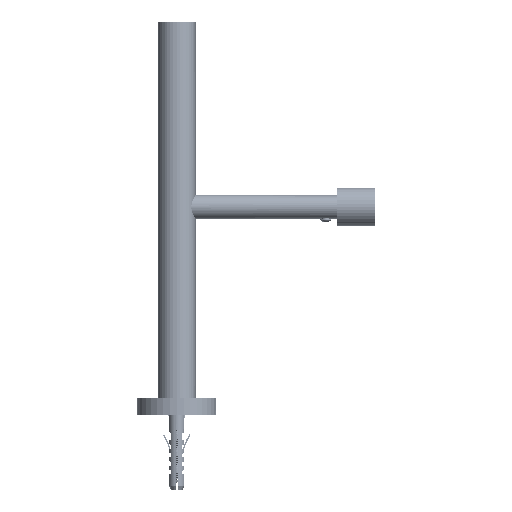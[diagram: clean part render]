
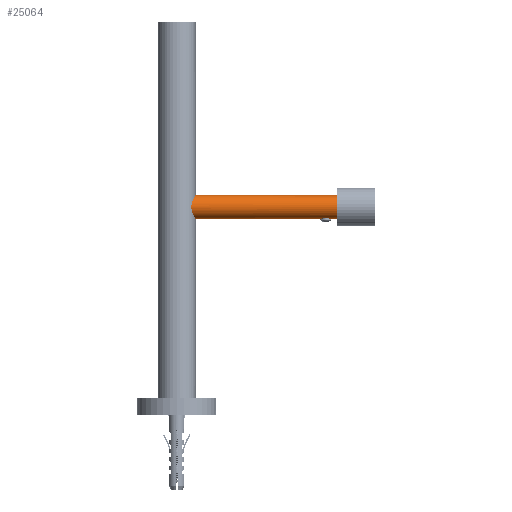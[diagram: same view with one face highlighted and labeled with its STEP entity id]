
A CAD part, left-side view. The second image highlights one B-rep face of the part: STEP entity #25064.
In plain terms, the highlighted cylindrical face has radius 6.35 mm (diameter 12.7 mm), a full revolution.
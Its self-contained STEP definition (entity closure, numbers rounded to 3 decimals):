
#607=FACE_BOUND('',#8011,.T.);
#996=B_SPLINE_CURVE_WITH_KNOTS('',3,(#54659,#54660,#54661,#54662,#54663,
#54664,#54665,#54666,#54667,#54668,#54669,#54670,#54671,#54672,#54673,#54674,
#54675,#54676,#54677,#54678,#54679,#54680,#54681,#54682,#54683,#54684,#54685,
#54686,#54687,#54688,#54689,#54690,#54691,#54692),.UNSPECIFIED.,.T.,.F.,
(4,2,2,2,2,2,2,2,2,2,2,2,2,2,2,2,4),(0.,0.249,0.498,
0.745,0.992,1.239,1.486,1.735,
1.984,2.233,2.482,2.728,2.975,
3.222,3.469,3.718,3.967),
 .UNSPECIFIED.);
#1004=B_SPLINE_CURVE_WITH_KNOTS('',3,(#54861,#54862,#54863,#54864,#54865,
#54866,#54867,#54868,#54869,#54870,#54871,#54872,#54873,#54874,#54875,#54876,
#54877,#54878,#54879,#54880,#54881,#54882,#54883,#54884,#54885,#54886,#54887,
#54888,#54889,#54890,#54891,#54892,#54893,#54894),.UNSPECIFIED.,.T.,.F.,
(4,2,2,2,2,2,2,2,2,2,2,2,2,2,2,2,4),(0.,0.095,0.191,
0.286,0.381,0.476,0.572,
0.667,0.762,0.858,0.953,
1.048,1.144,1.239,1.334,1.429,
1.525),.UNSPECIFIED.);
#2596=LINE('',#54859,#4274);
#4274=VECTOR('',#28990,6.35);
#5792=CYLINDRICAL_SURFACE('',#26643,6.35);
#6522=FACE_OUTER_BOUND('',#8010,.T.);
#8010=EDGE_LOOP('',(#17798,#17799,#17800,#17801));
#8011=EDGE_LOOP('',(#17802));
#9482=CIRCLE('',#26642,6.35);
#10376=VERTEX_POINT('',#54658);
#10387=VERTEX_POINT('',#54856);
#10388=VERTEX_POINT('',#54860);
#13192=EDGE_CURVE('',#10376,#10376,#996,.T.);
#13206=EDGE_CURVE('',#10387,#10387,#9482,.T.);
#13207=EDGE_CURVE('',#10376,#10387,#2596,.T.);
#13208=EDGE_CURVE('',#10388,#10388,#1004,.T.);
#17798=ORIENTED_EDGE('',*,*,#13192,.T.);
#17799=ORIENTED_EDGE('',*,*,#13207,.T.);
#17800=ORIENTED_EDGE('',*,*,#13206,.T.);
#17801=ORIENTED_EDGE('',*,*,#13207,.F.);
#17802=ORIENTED_EDGE('',*,*,#13208,.F.);
#25064=ADVANCED_FACE('',(#6522,#607),#5792,.T.);
#26642=AXIS2_PLACEMENT_3D('',#54857,#28986,#28987);
#26643=AXIS2_PLACEMENT_3D('',#54858,#28988,#28989);
#28986=DIRECTION('center_axis',(0.,1.,0.));
#28987=DIRECTION('ref_axis',(1.,0.,0.));
#28988=DIRECTION('center_axis',(0.,1.,0.));
#28989=DIRECTION('ref_axis',(1.,0.,0.));
#28990=DIRECTION('',(0.,-1.,0.));
#54658=CARTESIAN_POINT('',(-6.35,317.675,115.1));
#54659=CARTESIAN_POINT('Ctrl Pts',(-6.35,317.675,115.1));
#54660=CARTESIAN_POINT('Ctrl Pts',(-6.35,317.675,114.27));
#54661=CARTESIAN_POINT('Ctrl Pts',(-6.179,317.527,113.412));
#54662=CARTESIAN_POINT('Ctrl Pts',(-5.526,317.056,111.86));
#54663=CARTESIAN_POINT('Ctrl Pts',(-5.043,316.743,111.163));
#54664=CARTESIAN_POINT('Ctrl Pts',(-3.942,316.189,110.062));
#54665=CARTESIAN_POINT('Ctrl Pts',(-3.244,315.907,109.576));
#54666=CARTESIAN_POINT('Ctrl Pts',(-1.685,315.51,108.919));
#54667=CARTESIAN_POINT('Ctrl Pts',(-0.823,315.4,108.75));
#54668=CARTESIAN_POINT('Ctrl Pts',(0.823,315.4,108.75));
#54669=CARTESIAN_POINT('Ctrl Pts',(1.685,315.51,108.919));
#54670=CARTESIAN_POINT('Ctrl Pts',(3.244,315.907,109.576));
#54671=CARTESIAN_POINT('Ctrl Pts',(3.942,316.189,110.062));
#54672=CARTESIAN_POINT('Ctrl Pts',(5.043,316.743,111.163));
#54673=CARTESIAN_POINT('Ctrl Pts',(5.526,317.056,111.86));
#54674=CARTESIAN_POINT('Ctrl Pts',(6.179,317.527,113.412));
#54675=CARTESIAN_POINT('Ctrl Pts',(6.35,317.675,114.27));
#54676=CARTESIAN_POINT('Ctrl Pts',(6.35,317.675,115.93));
#54677=CARTESIAN_POINT('Ctrl Pts',(6.179,317.527,116.788));
#54678=CARTESIAN_POINT('Ctrl Pts',(5.526,317.056,118.34));
#54679=CARTESIAN_POINT('Ctrl Pts',(5.043,316.743,119.037));
#54680=CARTESIAN_POINT('Ctrl Pts',(3.942,316.189,120.138));
#54681=CARTESIAN_POINT('Ctrl Pts',(3.244,315.907,120.624));
#54682=CARTESIAN_POINT('Ctrl Pts',(1.685,315.51,121.281));
#54683=CARTESIAN_POINT('Ctrl Pts',(0.823,315.4,121.45));
#54684=CARTESIAN_POINT('Ctrl Pts',(-0.823,315.4,121.45));
#54685=CARTESIAN_POINT('Ctrl Pts',(-1.685,315.51,121.281));
#54686=CARTESIAN_POINT('Ctrl Pts',(-3.244,315.907,120.624));
#54687=CARTESIAN_POINT('Ctrl Pts',(-3.942,316.189,120.138));
#54688=CARTESIAN_POINT('Ctrl Pts',(-5.043,316.743,119.037));
#54689=CARTESIAN_POINT('Ctrl Pts',(-5.526,317.056,118.34));
#54690=CARTESIAN_POINT('Ctrl Pts',(-6.179,317.527,116.788));
#54691=CARTESIAN_POINT('Ctrl Pts',(-6.35,317.675,115.93));
#54692=CARTESIAN_POINT('Ctrl Pts',(-6.35,317.675,115.1));
#54856=CARTESIAN_POINT('',(-6.35,240.4,115.1));
#54857=CARTESIAN_POINT('Origin',(0.,240.4,115.1));
#54858=CARTESIAN_POINT('Origin',(0.,325.4,115.1));
#54859=CARTESIAN_POINT('',(-6.35,325.4,115.1));
#54860=CARTESIAN_POINT('',(-2.5,246.4,109.263));
#54861=CARTESIAN_POINT('Ctrl Pts',(2.5,246.4,109.263));
#54862=CARTESIAN_POINT('Ctrl Pts',(2.5,246.082,109.263));
#54863=CARTESIAN_POINT('Ctrl Pts',(2.436,245.746,109.234));
#54864=CARTESIAN_POINT('Ctrl Pts',(2.18,245.131,109.134));
#54865=CARTESIAN_POINT('Ctrl Pts',(1.988,244.852,109.065));
#54866=CARTESIAN_POINT('Ctrl Pts',(1.548,244.412,108.937));
#54867=CARTESIAN_POINT('Ctrl Pts',(1.269,244.22,108.87));
#54868=CARTESIAN_POINT('Ctrl Pts',(0.654,243.964,108.776));
#54869=CARTESIAN_POINT('Ctrl Pts',(0.318,243.9,108.75));
#54870=CARTESIAN_POINT('Ctrl Pts',(-0.318,243.9,108.75));
#54871=CARTESIAN_POINT('Ctrl Pts',(-0.654,243.964,
108.776));
#54872=CARTESIAN_POINT('Ctrl Pts',(-1.269,244.22,108.87));
#54873=CARTESIAN_POINT('Ctrl Pts',(-1.548,244.412,108.937));
#54874=CARTESIAN_POINT('Ctrl Pts',(-1.988,244.852,109.065));
#54875=CARTESIAN_POINT('Ctrl Pts',(-2.18,245.131,109.134));
#54876=CARTESIAN_POINT('Ctrl Pts',(-2.436,245.746,109.234));
#54877=CARTESIAN_POINT('Ctrl Pts',(-2.5,246.082,109.263));
#54878=CARTESIAN_POINT('Ctrl Pts',(-2.5,246.718,109.263));
#54879=CARTESIAN_POINT('Ctrl Pts',(-2.436,247.054,109.234));
#54880=CARTESIAN_POINT('Ctrl Pts',(-2.18,247.669,109.134));
#54881=CARTESIAN_POINT('Ctrl Pts',(-1.988,247.948,109.065));
#54882=CARTESIAN_POINT('Ctrl Pts',(-1.548,248.388,108.937));
#54883=CARTESIAN_POINT('Ctrl Pts',(-1.269,248.58,108.87));
#54884=CARTESIAN_POINT('Ctrl Pts',(-0.654,248.836,
108.776));
#54885=CARTESIAN_POINT('Ctrl Pts',(-0.318,248.9,108.75));
#54886=CARTESIAN_POINT('Ctrl Pts',(0.318,248.9,108.75));
#54887=CARTESIAN_POINT('Ctrl Pts',(0.654,248.836,108.776));
#54888=CARTESIAN_POINT('Ctrl Pts',(1.269,248.58,108.87));
#54889=CARTESIAN_POINT('Ctrl Pts',(1.548,248.388,108.937));
#54890=CARTESIAN_POINT('Ctrl Pts',(1.988,247.948,109.065));
#54891=CARTESIAN_POINT('Ctrl Pts',(2.18,247.669,109.134));
#54892=CARTESIAN_POINT('Ctrl Pts',(2.436,247.054,109.234));
#54893=CARTESIAN_POINT('Ctrl Pts',(2.5,246.718,109.263));
#54894=CARTESIAN_POINT('Ctrl Pts',(2.5,246.4,109.263));
